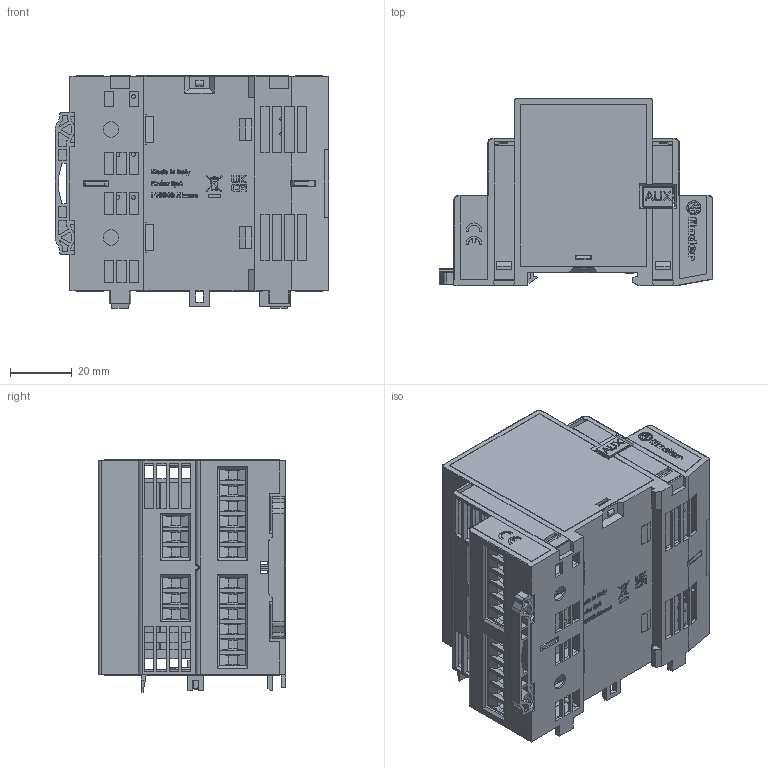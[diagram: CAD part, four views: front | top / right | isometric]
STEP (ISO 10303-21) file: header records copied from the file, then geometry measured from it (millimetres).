
FILE_DESCRIPTION(/* description */ ('Unknown'),/* implementation_level */ '2;1');
FILE_NAME(/* name */ '8A58',/* time_stamp */ '2024-09-13T12:25:01+02:00',/* author */ ('Unknown'),/* organization */ ('Unknown'),/* preprocessor_version */ 'ST-DEVELOPER v18.102',/* originating_system */ 'Solid Edge',/* authorisation */ 'Unknown');
FILE_SCHEMA (('AUTOMOTIVE_DESIGN {1 0 10303 214 3 1 1}'));
Products named in the file (1): 8A58
Bounding box: 88.85 x 60.8 x 75.5 mm (x, y, z)
Volume: 72534.5 mm3; surface area: 97680.1 mm2
Topology: 1 solids, 1 shells, 5693 faces, 15980 edges, 10564 vertices
Faces by surface type: plane 4768, cylinder 795, bspline 68, cone 44, torus 17, sphere 1
Full cylindrical faces by diameter (mm): 0.2 x1, 0.222 x2, 0.364 x4, 0.374 x2, 0.4 x1, 0.429 x5, 0.6 x6, 1.3 x40, 1.5 x2, 2.6 x36, 2.85 x36, 3 x4, 3.8 x36, 4.564 x1, 5 x2
Entity records: 223511 total; most frequent: CARTESIAN_POINT 37023, ORIENTED_EDGE 31252, DIRECTION 28021, EDGE_CURVE 15626, LINE 13129, VECTOR 13129, VERTEX_POINT 10437, AXIS2_PLACEMENT_3D 7446
